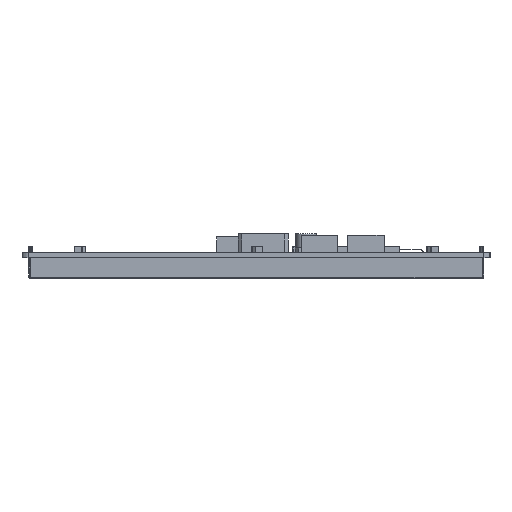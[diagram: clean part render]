
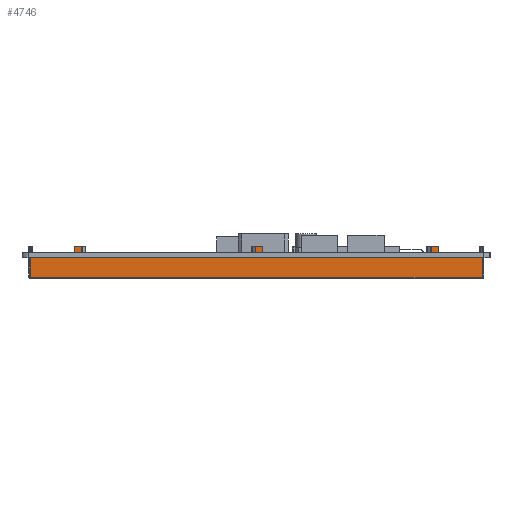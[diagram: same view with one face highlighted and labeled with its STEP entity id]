
A CAD part, left-side view. The second image highlights one B-rep face of the part: STEP entity #4746.
In plain terms, the highlighted planar face has unit normal (-1, 0, 0).
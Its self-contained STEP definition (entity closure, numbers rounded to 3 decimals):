
#4746=ADVANCED_FACE('',(#9222),#6824,.T.);
#6824=PLANE('',#56413);
#9222=FACE_OUTER_BOUND('',#11786,.T.);
#11786=EDGE_LOOP('',(#25020,#25021,#25022,#25023,#25024,#25025,#25026,#25027,
#25028,#25029,#25030,#25031,#25032,#25033,#25034,#25035,#25036,#25037,#25038,
#25039,#25040,#25041));
#25020=ORIENTED_EDGE('',*,*,#37470,.F.);
#25021=ORIENTED_EDGE('',*,*,#37471,.T.);
#25022=ORIENTED_EDGE('',*,*,#37472,.T.);
#25023=ORIENTED_EDGE('',*,*,#37473,.F.);
#25024=ORIENTED_EDGE('',*,*,#37474,.F.);
#25025=ORIENTED_EDGE('',*,*,#37475,.F.);
#25026=ORIENTED_EDGE('',*,*,#37476,.T.);
#25027=ORIENTED_EDGE('',*,*,#37477,.T.);
#25028=ORIENTED_EDGE('',*,*,#37478,.T.);
#25029=ORIENTED_EDGE('',*,*,#37467,.F.);
#25030=ORIENTED_EDGE('',*,*,#37479,.F.);
#25031=ORIENTED_EDGE('',*,*,#37480,.F.);
#25032=ORIENTED_EDGE('',*,*,#37481,.T.);
#25033=ORIENTED_EDGE('',*,*,#37482,.T.);
#25034=ORIENTED_EDGE('',*,*,#37483,.T.);
#25035=ORIENTED_EDGE('',*,*,#37463,.F.);
#25036=ORIENTED_EDGE('',*,*,#37484,.F.);
#25037=ORIENTED_EDGE('',*,*,#37485,.T.);
#25038=ORIENTED_EDGE('',*,*,#37486,.F.);
#25039=ORIENTED_EDGE('',*,*,#37487,.F.);
#25040=ORIENTED_EDGE('',*,*,#37488,.T.);
#25041=ORIENTED_EDGE('',*,*,#37461,.F.);
#30540=VERTEX_POINT('',#84005);
#30542=VERTEX_POINT('',#84009);
#30543=VERTEX_POINT('',#84013);
#30545=VERTEX_POINT('',#84016);
#30547=VERTEX_POINT('',#84022);
#30549=VERTEX_POINT('',#84025);
#30551=VERTEX_POINT('',#84031);
#30552=VERTEX_POINT('',#84033);
#30553=VERTEX_POINT('',#84035);
#30554=VERTEX_POINT('',#84037);
#30555=VERTEX_POINT('',#84039);
#30556=VERTEX_POINT('',#84041);
#30557=VERTEX_POINT('',#84043);
#30558=VERTEX_POINT('',#84045);
#30559=VERTEX_POINT('',#84048);
#30560=VERTEX_POINT('',#84050);
#30561=VERTEX_POINT('',#84052);
#30562=VERTEX_POINT('',#84054);
#30563=VERTEX_POINT('',#84057);
#30564=VERTEX_POINT('',#84059);
#30565=VERTEX_POINT('',#84061);
#30566=VERTEX_POINT('',#84063);
#37461=EDGE_CURVE('',#30542,#30540,#45652,.T.);
#37463=EDGE_CURVE('',#30543,#30545,#45654,.T.);
#37467=EDGE_CURVE('',#30547,#30549,#45658,.T.);
#37470=EDGE_CURVE('',#30551,#30542,#45661,.T.);
#37471=EDGE_CURVE('',#30551,#30552,#45662,.T.);
#37472=EDGE_CURVE('',#30552,#30553,#45663,.T.);
#37473=EDGE_CURVE('',#30554,#30553,#45664,.T.);
#37474=EDGE_CURVE('',#30555,#30554,#45665,.T.);
#37475=EDGE_CURVE('',#30556,#30555,#45666,.T.);
#37476=EDGE_CURVE('',#30556,#30557,#45667,.T.);
#37477=EDGE_CURVE('',#30557,#30558,#45668,.T.);
#37478=EDGE_CURVE('',#30558,#30549,#45669,.T.);
#37479=EDGE_CURVE('',#30559,#30547,#45670,.T.);
#37480=EDGE_CURVE('',#30560,#30559,#45671,.T.);
#37481=EDGE_CURVE('',#30560,#30561,#45672,.T.);
#37482=EDGE_CURVE('',#30561,#30562,#45673,.T.);
#37483=EDGE_CURVE('',#30562,#30545,#45674,.T.);
#37484=EDGE_CURVE('',#30563,#30543,#45675,.T.);
#37485=EDGE_CURVE('',#30563,#30564,#45676,.T.);
#37486=EDGE_CURVE('',#30565,#30564,#45677,.T.);
#37487=EDGE_CURVE('',#30566,#30565,#45678,.T.);
#37488=EDGE_CURVE('',#30566,#30540,#45679,.T.);
#45652=LINE('',#84010,#52036);
#45654=LINE('',#84015,#52038);
#45658=LINE('',#84024,#52042);
#45661=LINE('',#84030,#52045);
#45662=LINE('',#84032,#52046);
#45663=LINE('',#84034,#52047);
#45664=LINE('',#84036,#52048);
#45665=LINE('',#84038,#52049);
#45666=LINE('',#84040,#52050);
#45667=LINE('',#84042,#52051);
#45668=LINE('',#84044,#52052);
#45669=LINE('',#84046,#52053);
#45670=LINE('',#84047,#52054);
#45671=LINE('',#84049,#52055);
#45672=LINE('',#84051,#52056);
#45673=LINE('',#84053,#52057);
#45674=LINE('',#84055,#52058);
#45675=LINE('',#84056,#52059);
#45676=LINE('',#84058,#52060);
#45677=LINE('',#84060,#52061);
#45678=LINE('',#84062,#52062);
#45679=LINE('',#84064,#52063);
#52036=VECTOR('',#68708,1.);
#52038=VECTOR('',#68712,1.);
#52042=VECTOR('',#68718,1.);
#52045=VECTOR('',#68723,1.);
#52046=VECTOR('',#68724,1.);
#52047=VECTOR('',#68725,1.);
#52048=VECTOR('',#68726,1.);
#52049=VECTOR('',#68727,1.);
#52050=VECTOR('',#68728,1.);
#52051=VECTOR('',#68729,1.);
#52052=VECTOR('',#68730,1.);
#52053=VECTOR('',#68731,1.);
#52054=VECTOR('',#68732,1.);
#52055=VECTOR('',#68733,1.);
#52056=VECTOR('',#68734,1.);
#52057=VECTOR('',#68735,1.);
#52058=VECTOR('',#68736,1.);
#52059=VECTOR('',#68737,1.);
#52060=VECTOR('',#68738,1.);
#52061=VECTOR('',#68739,1.);
#52062=VECTOR('',#68740,1.);
#52063=VECTOR('',#68741,1.);
#56413=AXIS2_PLACEMENT_3D('',#84065,#68742,#68743);
#68708=DIRECTION('',(0.,-1.,0.));
#68712=DIRECTION('',(0.,-1.,0.));
#68718=DIRECTION('',(0.,-1.,0.));
#68723=DIRECTION('',(0.,0.,1.));
#68724=DIRECTION('',(0.,-1.,0.));
#68725=DIRECTION('',(0.,0.,1.));
#68726=DIRECTION('',(0.,-1.,0.));
#68727=DIRECTION('',(0.,0.,-1.));
#68728=DIRECTION('',(0.,-1.,0.));
#68729=DIRECTION('',(0.,0.,-1.));
#68730=DIRECTION('',(0.,-1.,0.));
#68731=DIRECTION('',(0.,0.,-1.));
#68732=DIRECTION('',(0.,0.,-1.));
#68733=DIRECTION('',(0.,-1.,0.));
#68734=DIRECTION('',(0.,0.,-1.));
#68735=DIRECTION('',(0.,-1.,0.));
#68736=DIRECTION('',(0.,0.,-1.));
#68737=DIRECTION('',(0.,0.,-1.));
#68738=DIRECTION('',(0.,-1.,0.));
#68739=DIRECTION('',(0.,0.,-1.));
#68740=DIRECTION('',(0.,-1.,0.));
#68741=DIRECTION('',(0.,0.,-1.));
#68742=DIRECTION('',(-1.,0.,0.));
#68743=DIRECTION('',(0.,-1.,0.));
#84005=CARTESIAN_POINT('',(1013.555,86.184,-1.6));
#84009=CARTESIAN_POINT('',(1013.555,100.243,-1.6));
#84010=CARTESIAN_POINT('',(1013.555,100.243,-1.6));
#84013=CARTESIAN_POINT('',(1013.555,84.184,-1.6));
#84015=CARTESIAN_POINT('',(1013.555,100.243,-1.6));
#84016=CARTESIAN_POINT('',(1013.555,28.708,-1.6));
#84022=CARTESIAN_POINT('',(1013.555,26.708,-1.6));
#84024=CARTESIAN_POINT('',(1013.555,100.243,-1.6));
#84025=CARTESIAN_POINT('',(1013.555,-26.802,-1.6));
#84030=CARTESIAN_POINT('',(1013.555,100.243,-8.1));
#84031=CARTESIAN_POINT('',(1013.555,100.243,-7.7));
#84032=CARTESIAN_POINT('',(1013.555,-42.757,-7.7));
#84033=CARTESIAN_POINT('',(1013.555,-42.757,-7.7));
#84034=CARTESIAN_POINT('',(1013.555,-42.757,-8.1));
#84035=CARTESIAN_POINT('',(1013.555,-42.757,-1.6));
#84036=CARTESIAN_POINT('',(1013.555,100.243,-1.6));
#84037=CARTESIAN_POINT('',(1013.555,-28.802,-1.6));
#84038=CARTESIAN_POINT('',(1013.555,-28.802,2.));
#84039=CARTESIAN_POINT('',(1013.555,-28.802,2.));
#84040=CARTESIAN_POINT('',(1013.555,-26.575,2.));
#84041=CARTESIAN_POINT('',(1013.555,-26.575,2.));
#84042=CARTESIAN_POINT('',(1013.555,-26.575,2.));
#84043=CARTESIAN_POINT('',(1013.555,-26.575,0.));
#84044=CARTESIAN_POINT('',(1013.555,-26.575,0.));
#84045=CARTESIAN_POINT('',(1013.555,-26.802,0.));
#84046=CARTESIAN_POINT('',(1013.555,-26.802,0.));
#84047=CARTESIAN_POINT('',(1013.555,26.708,0.));
#84048=CARTESIAN_POINT('',(1013.555,26.708,2.));
#84049=CARTESIAN_POINT('',(1013.555,28.935,2.));
#84050=CARTESIAN_POINT('',(1013.555,28.935,2.));
#84051=CARTESIAN_POINT('',(1013.555,28.935,2.));
#84052=CARTESIAN_POINT('',(1013.555,28.935,0.));
#84053=CARTESIAN_POINT('',(1013.555,28.935,0.));
#84054=CARTESIAN_POINT('',(1013.555,28.708,0.));
#84055=CARTESIAN_POINT('',(1013.555,28.708,0.));
#84056=CARTESIAN_POINT('',(1013.555,84.184,0.));
#84057=CARTESIAN_POINT('',(1013.555,84.184,0.));
#84058=CARTESIAN_POINT('',(1013.555,86.184,0.));
#84059=CARTESIAN_POINT('',(1013.555,83.957,0.));
#84060=CARTESIAN_POINT('',(1013.555,83.957,2.));
#84061=CARTESIAN_POINT('',(1013.555,83.957,2.));
#84062=CARTESIAN_POINT('',(1013.555,86.184,2.));
#84063=CARTESIAN_POINT('',(1013.555,86.184,2.));
#84064=CARTESIAN_POINT('',(1013.555,86.184,0.));
#84065=CARTESIAN_POINT('',(1013.555,100.243,-8.1));
